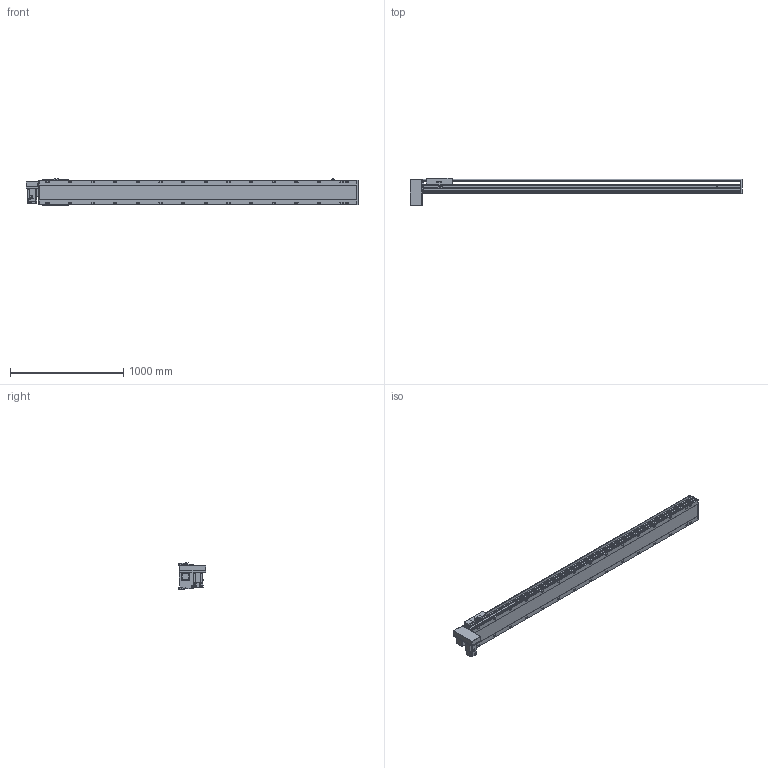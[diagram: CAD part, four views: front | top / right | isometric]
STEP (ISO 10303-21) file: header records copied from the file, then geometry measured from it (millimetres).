
FILE_DESCRIPTION(/* description */ ('STEP AP214'),/* implementation_level */ '2;1');
FILE_NAME(/* name */ 'PBS220-P40-S2450-RD-T75-C1-N(0)',/* time_stamp */ '2022-06-13T02:46:34+02:00',/* author */ ('License CC BY-ND 4.0'),/* organization */ ('CADENAS'),/* preprocessor_version */ 'ST-DEVELOPER v18.102',/* originating_system */ 'PARTsolutions',/* authorisation */ ' ');
FILE_SCHEMA (('AUTOMOTIVE_DESIGN {1 0 10303 214 3 1 1}'));
Length unit declared in the file: millimetre
Products named in the file (7): PBS220-P40-S2450-RD-T75-C1-N(0); PBS220_sensor; PBS220_plant; PBS220_sliser; T75-p1; PBS220T-RD_motors; PBS220-S2450()_body
Assembly tree (8 placements, depth 2):
  PBS220-P40-S2450-RD-T75-C1-N(0)
    PBS220_sensor  x3
    PBS220_plant
    PBS220_sliser
    T75-p1
    PBS220T-RD_motors
    PBS220-S2450()_body
Bounding box: 2934 x 239 x 238.5 mm (x, y, z)
Volume: 40979284.3 mm3; surface area: 3763944.6 mm2
Topology: 8 solids, 8 shells, 998 faces, 2592 edges, 1684 vertices
Faces by surface type: plane 626, cylinder 318, cone 54
Full cylindrical faces by diameter (mm): 2.013 x4, 4.5 x14, 4.917 x4, 6 x7, 6.647 x8, 8 x10, 8.376 x30, 8.5 x30, 10 x6, 14 x30, 38 x2, 40 x1, 70 x1
Entity records: 27813 total; most frequent: CARTESIAN_POINT 4954, DIRECTION 4833, ORIENTED_EDGE 4358, EDGE_CURVE 2179, AXIS2_PLACEMENT_3D 1737, VERTEX_POINT 1528, LINE 1359, VECTOR 1359
